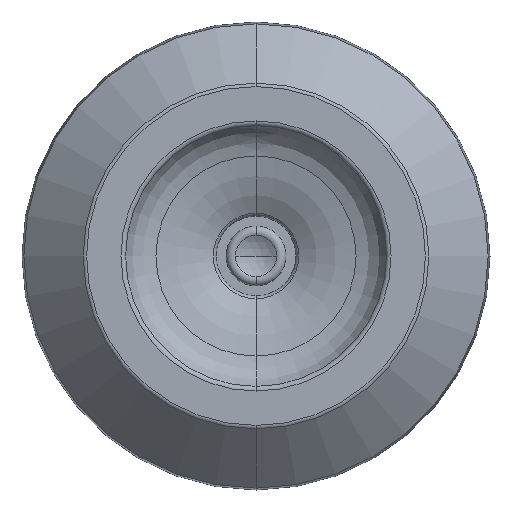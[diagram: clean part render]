
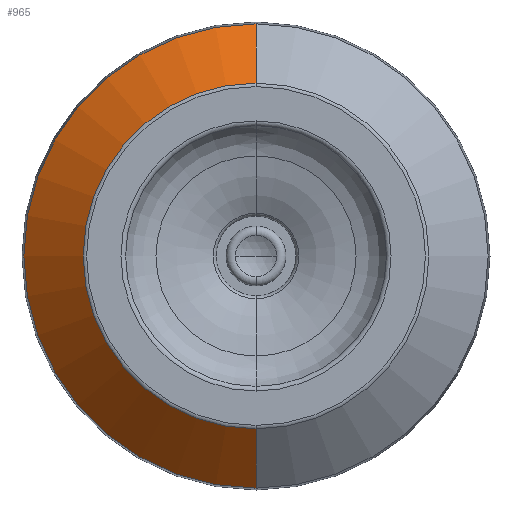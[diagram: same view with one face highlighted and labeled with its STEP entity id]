
A CAD part, front view. The second image highlights one B-rep face of the part: STEP entity #965.
In plain terms, the highlighted conical face has half-angle 47.447 degrees and reference radius 8.6 mm.
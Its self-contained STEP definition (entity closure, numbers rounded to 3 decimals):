
#103 = EDGE_CURVE ( 'NONE', #1558, #1423, #930, .T. ) ;
#332 = CARTESIAN_POINT ( 'NONE',  ( 0., 0., -11.65 ) ) ;
#529 = CIRCLE ( 'NONE', #530, 8.672 ) ;
#530 = AXIS2_PLACEMENT_3D ( 'NONE', #532, #533, #534 ) ;
#532 = CARTESIAN_POINT ( 'NONE',  ( 0., -2.734, 0. ) ) ;
#533 = DIRECTION ( 'NONE',  ( 0., 1., 0. ) ) ;
#534 = DIRECTION ( 'NONE',  ( 0., 0., -1. ) ) ;
#535 = CIRCLE ( 'NONE', #536, 11.65 ) ;
#536 = AXIS2_PLACEMENT_3D ( 'NONE', #537, #538, #539 ) ;
#537 = CARTESIAN_POINT ( 'NONE',  ( 0., 0., 0. ) ) ;
#538 = DIRECTION ( 'NONE',  ( 0., -1., 0. ) ) ;
#539 = DIRECTION ( 'NONE',  ( 0., 0., -1. ) ) ;
#671 = CARTESIAN_POINT ( 'NONE',  ( 0., -2.734, 8.672 ) ) ;
#703 = CARTESIAN_POINT ( 'NONE',  ( 0., 0., 11.65 ) ) ;
#705 = FACE_OUTER_BOUND ( 'NONE', #1711, .T. ) ;
#706 = CONICAL_SURFACE ( 'NONE', #707, 8.6, 0.828 ) ;
#707 = AXIS2_PLACEMENT_3D ( 'NONE', #708, #709, #710 ) ;
#708 = CARTESIAN_POINT ( 'NONE',  ( 0., -2.8, 0. ) ) ;
#709 = DIRECTION ( 'NONE',  ( 0., 1., 0. ) ) ;
#710 = DIRECTION ( 'NONE',  ( 0., 0., 1. ) ) ;
#830 = LINE ( 'NONE', #831, #832 ) ;
#831 = CARTESIAN_POINT ( 'NONE',  ( 0., -2.8, 8.6 ) ) ;
#832 = VECTOR ( 'NONE', #833, 1000. ) ;
#833 = DIRECTION ( 'NONE',  ( 0., 0.676, 0.737 ) ) ;
#926 = VERTEX_POINT ( 'NONE', #671 ) ;
#930 = LINE ( 'NONE', #931, #932 ) ;
#931 = CARTESIAN_POINT ( 'NONE',  ( 0., -2.8, -8.6 ) ) ;
#932 = VECTOR ( 'NONE', #933, 1000. ) ;
#933 = DIRECTION ( 'NONE',  ( 0., 0.676, -0.737 ) ) ;
#964 = VERTEX_POINT ( 'NONE', #703 ) ;
#965 = ADVANCED_FACE ( 'NONE', ( #705 ), #706, .T. ) ;
#1144 = CARTESIAN_POINT ( 'NONE',  ( 0., -2.734, -8.672 ) ) ;
#1341 = ORIENTED_EDGE ( 'NONE', *, *, #1609, .T. ) ;
#1358 = ORIENTED_EDGE ( 'NONE', *, *, #1466, .T. ) ;
#1423 = VERTEX_POINT ( 'NONE', #332 ) ;
#1466 = EDGE_CURVE ( 'NONE', #1558, #926, #529, .T. ) ;
#1468 = EDGE_CURVE ( 'NONE', #964, #1423, #535, .T. ) ;
#1558 = VERTEX_POINT ( 'NONE', #1144 ) ;
#1609 = EDGE_CURVE ( 'NONE', #926, #964, #830, .T. ) ;
#1664 = ORIENTED_EDGE ( 'NONE', *, *, #1468, .T. ) ;
#1711 = EDGE_LOOP ( 'NONE', ( #1718, #1358, #1341, #1664 ) ) ;
#1718 = ORIENTED_EDGE ( 'NONE', *, *, #103, .F. ) ;
